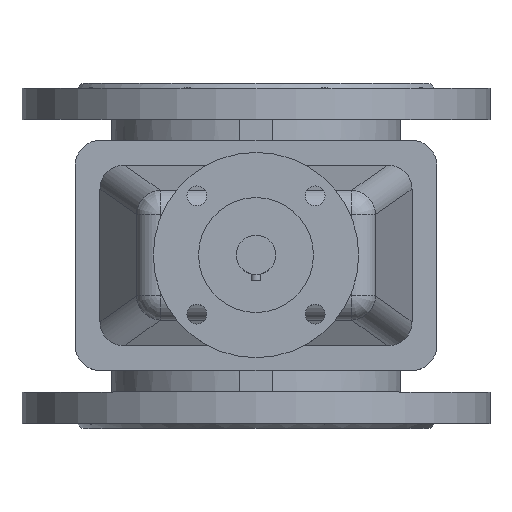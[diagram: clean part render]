
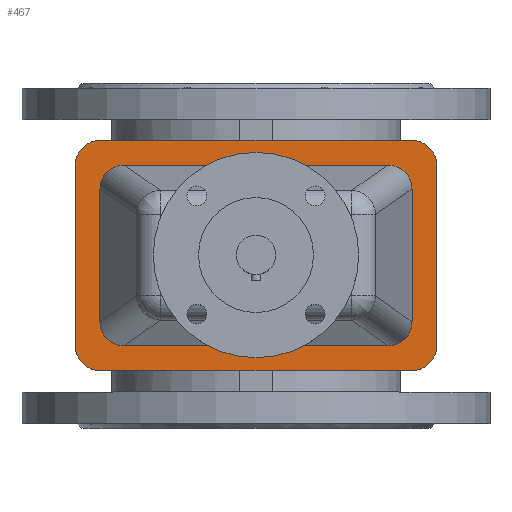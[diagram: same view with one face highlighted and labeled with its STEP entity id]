
A CAD part, top view. The second image highlights one B-rep face of the part: STEP entity #467.
In plain terms, the highlighted planar face has unit normal (0, 0, 1).
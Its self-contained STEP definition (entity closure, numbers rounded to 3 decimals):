
#467=ADVANCED_FACE('',(#1472,#1474),#1476,.T.);
#1472=FACE_BOUND('',#1473,.T.);
#1473=EDGE_LOOP('',(#2997,#2998,#2999,#3000,#3001,#3002,#3003,#3004));
#1474=FACE_BOUND('',#1475,.T.);
#1475=EDGE_LOOP('',(#3005,#3006,#3007,#3008,#3009,#3010,#3011,#3012));
#1476=PLANE('',#1477);
#1477=AXIS2_PLACEMENT_3D('',#1478,#1479,#1480);
#1478=CARTESIAN_POINT('',(0.,0.,187.));
#1479=DIRECTION('',(0.,-0.,1.));
#1480=DIRECTION('',(0.,1.,0.));
#2997=ORIENTED_EDGE('',*,*,#3472,.F.);
#2998=ORIENTED_EDGE('',*,*,#3485,.T.);
#2999=ORIENTED_EDGE('',*,*,#3484,.F.);
#3000=ORIENTED_EDGE('',*,*,#3482,.T.);
#3001=ORIENTED_EDGE('',*,*,#3480,.F.);
#3002=ORIENTED_EDGE('',*,*,#3478,.T.);
#3003=ORIENTED_EDGE('',*,*,#3476,.F.);
#3004=ORIENTED_EDGE('',*,*,#3473,.T.);
#3005=ORIENTED_EDGE('',*,*,#3509,.F.);
#3006=ORIENTED_EDGE('',*,*,#3510,.F.);
#3007=ORIENTED_EDGE('',*,*,#3511,.F.);
#3008=ORIENTED_EDGE('',*,*,#3512,.F.);
#3009=ORIENTED_EDGE('',*,*,#3513,.F.);
#3010=ORIENTED_EDGE('',*,*,#3514,.F.);
#3011=ORIENTED_EDGE('',*,*,#3515,.F.);
#3012=ORIENTED_EDGE('',*,*,#3516,.F.);
#3472=EDGE_CURVE('',#3848,#3846,#3850,.F.);
#3473=EDGE_CURVE('',#3851,#3846,#3852,.T.);
#3476=EDGE_CURVE('',#3851,#3854,#3856,.F.);
#3478=EDGE_CURVE('',#3857,#3854,#3859,.T.);
#3480=EDGE_CURVE('',#3857,#3860,#3862,.F.);
#3482=EDGE_CURVE('',#3863,#3860,#3865,.T.);
#3484=EDGE_CURVE('',#3863,#3866,#3868,.F.);
#3485=EDGE_CURVE('',#3848,#3866,#3869,.T.);
#3509=EDGE_CURVE('',#3909,#3910,#3911,.F.);
#3510=EDGE_CURVE('',#3912,#3909,#3913,.T.);
#3511=EDGE_CURVE('',#3914,#3912,#3915,.T.);
#3512=EDGE_CURVE('',#3916,#3914,#3917,.T.);
#3513=EDGE_CURVE('',#3918,#3916,#3919,.F.);
#3514=EDGE_CURVE('',#3920,#3918,#3921,.T.);
#3515=EDGE_CURVE('',#3922,#3920,#3923,.T.);
#3516=EDGE_CURVE('',#3910,#3922,#3924,.T.);
#3846=VERTEX_POINT('',#4587);
#3848=VERTEX_POINT('',#4591);
#3850=CIRCLE('',#4595,15.);
#3851=VERTEX_POINT('',#4599);
#3852=LINE('',#4600,#4601);
#3854=VERTEX_POINT('',#4606);
#3856=CIRCLE('',#4610,15.);
#3857=VERTEX_POINT('',#4614);
#3859=LINE('',#4618,#4619);
#3860=VERTEX_POINT('',#4621);
#3862=CIRCLE('',#4625,15.);
#3863=VERTEX_POINT('',#4629);
#3865=LINE('',#4633,#4634);
#3866=VERTEX_POINT('',#4636);
#3868=CIRCLE('',#4640,15.);
#3869=LINE('',#4644,#4645);
#3909=VERTEX_POINT('',#4745);
#3910=VERTEX_POINT('',#4746);
#3911=(BOUNDED_CURVE()B_SPLINE_CURVE(3,
(#4747,#4748,#4749,#4750),
.UNSPECIFIED.,.F.,.F.)B_SPLINE_CURVE_WITH_KNOTS((4,4),
(0.,1.),
.UNSPECIFIED.)CURVE()GEOMETRIC_REPRESENTATION_ITEM()RATIONAL_B_SPLINE_CURVE((1.,
0.815,0.815,1.))REPRESENTATION_ITEM(''));
#3912=VERTEX_POINT('',#4751);
#3913=LINE('',#4752,#4753);
#3914=VERTEX_POINT('',#4755);
#3915=(BOUNDED_CURVE()B_SPLINE_CURVE(3,
(#4756,#4757,#4758,#4759),
.UNSPECIFIED.,.F.,.F.)B_SPLINE_CURVE_WITH_KNOTS((4,4),
(0.,1.),
.UNSPECIFIED.)CURVE()GEOMETRIC_REPRESENTATION_ITEM()RATIONAL_B_SPLINE_CURVE((1.,
0.815,0.815,1.))REPRESENTATION_ITEM(''));
#3916=VERTEX_POINT('',#4760);
#3917=LINE('',#4761,#4762);
#3918=VERTEX_POINT('',#4764);
#3919=(BOUNDED_CURVE()B_SPLINE_CURVE(3,
(#4765,#4766,#4767,#4768),
.UNSPECIFIED.,.F.,.F.)B_SPLINE_CURVE_WITH_KNOTS((4,4),
(0.,1.),
.UNSPECIFIED.)CURVE()GEOMETRIC_REPRESENTATION_ITEM()RATIONAL_B_SPLINE_CURVE((1.,
0.815,0.815,1.))REPRESENTATION_ITEM(''));
#3920=VERTEX_POINT('',#4769);
#3921=LINE('',#4770,#4771);
#3922=VERTEX_POINT('',#4773);
#3923=(BOUNDED_CURVE()B_SPLINE_CURVE(3,
(#4774,#4775,#4776,#4777),
.UNSPECIFIED.,.F.,.F.)B_SPLINE_CURVE_WITH_KNOTS((4,4),
(0.,1.),
.UNSPECIFIED.)CURVE()GEOMETRIC_REPRESENTATION_ITEM()RATIONAL_B_SPLINE_CURVE((1.,
0.815,0.815,1.))REPRESENTATION_ITEM(''));
#3924=LINE('',#4778,#4779);
#4587=CARTESIAN_POINT('',(-110.,-55.,187.));
#4591=CARTESIAN_POINT('',(-95.,-70.,187.));
#4595=AXIS2_PLACEMENT_3D('',#4596,#4597,#4598);
#4596=CARTESIAN_POINT('',(-95.,-55.,187.));
#4597=DIRECTION('',(0.,-0.,1.));
#4598=DIRECTION('',(-1.,0.,0.));
#4599=CARTESIAN_POINT('',(-110.,55.,187.));
#4600=CARTESIAN_POINT('',(-110.,55.,187.));
#4601=VECTOR('',#4602,1.);
#4602=DIRECTION('',(0.,-1.,0.));
#4606=CARTESIAN_POINT('',(-95.,70.,187.));
#4610=AXIS2_PLACEMENT_3D('',#4611,#4612,#4613);
#4611=CARTESIAN_POINT('',(-95.,55.,187.));
#4612=DIRECTION('',(0.,-0.,1.));
#4613=DIRECTION('',(0.,1.,0.));
#4614=CARTESIAN_POINT('',(95.,70.,187.));
#4618=CARTESIAN_POINT('',(95.,70.,187.));
#4619=VECTOR('',#4620,1.);
#4620=DIRECTION('',(-1.,0.,0.));
#4621=CARTESIAN_POINT('',(110.,55.,187.));
#4625=AXIS2_PLACEMENT_3D('',#4626,#4627,#4628);
#4626=CARTESIAN_POINT('',(95.,55.,187.));
#4627=DIRECTION('',(0.,-0.,1.));
#4628=DIRECTION('',(1.,0.,0.));
#4629=CARTESIAN_POINT('',(110.,-55.,187.));
#4633=CARTESIAN_POINT('',(110.,-55.,187.));
#4634=VECTOR('',#4635,1.);
#4635=DIRECTION('',(0.,1.,0.));
#4636=CARTESIAN_POINT('',(95.,-70.,187.));
#4640=AXIS2_PLACEMENT_3D('',#4641,#4642,#4643);
#4641=CARTESIAN_POINT('',(95.,-55.,187.));
#4642=DIRECTION('',(0.,-0.,1.));
#4643=DIRECTION('',(0.,-1.,0.));
#4644=CARTESIAN_POINT('',(-95.,-70.,187.));
#4645=VECTOR('',#4646,1.);
#4646=DIRECTION('',(1.,0.,0.));
#4745=CARTESIAN_POINT('',(-95.,-40.41,187.));
#4746=CARTESIAN_POINT('',(-80.19,-55.,187.));
#4747=CARTESIAN_POINT('',(-80.19,-55.,187.));
#4748=CARTESIAN_POINT('',(-88.939,-55.,187.));
#4749=CARTESIAN_POINT('',(-95.,-49.03,187.));
#4750=CARTESIAN_POINT('',(-95.,-40.41,187.));
#4751=CARTESIAN_POINT('',(-95.,40.41,187.));
#4752=CARTESIAN_POINT('',(-95.,40.41,187.));
#4753=VECTOR('',#4754,1.);
#4754=DIRECTION('',(0.,-1.,0.));
#4755=CARTESIAN_POINT('',(-80.19,55.,187.));
#4756=CARTESIAN_POINT('',(-80.19,55.,187.));
#4757=CARTESIAN_POINT('',(-88.939,55.,187.));
#4758=CARTESIAN_POINT('',(-95.,49.03,187.));
#4759=CARTESIAN_POINT('',(-95.,40.41,187.));
#4760=CARTESIAN_POINT('',(80.19,55.,187.));
#4761=CARTESIAN_POINT('',(80.19,55.,187.));
#4762=VECTOR('',#4763,1.);
#4763=DIRECTION('',(-1.,0.,0.));
#4764=CARTESIAN_POINT('',(95.,40.41,187.));
#4765=CARTESIAN_POINT('',(80.19,55.,187.));
#4766=CARTESIAN_POINT('',(88.939,55.,187.));
#4767=CARTESIAN_POINT('',(95.,49.03,187.));
#4768=CARTESIAN_POINT('',(95.,40.41,187.));
#4769=CARTESIAN_POINT('',(95.,-40.41,187.));
#4770=CARTESIAN_POINT('',(95.,-40.41,187.));
#4771=VECTOR('',#4772,1.);
#4772=DIRECTION('',(0.,1.,0.));
#4773=CARTESIAN_POINT('',(80.19,-55.,187.));
#4774=CARTESIAN_POINT('',(80.19,-55.,187.));
#4775=CARTESIAN_POINT('',(88.939,-55.,187.));
#4776=CARTESIAN_POINT('',(95.,-49.03,187.));
#4777=CARTESIAN_POINT('',(95.,-40.41,187.));
#4778=CARTESIAN_POINT('',(-80.19,-55.,187.));
#4779=VECTOR('',#4780,1.);
#4780=DIRECTION('',(1.,0.,0.));
